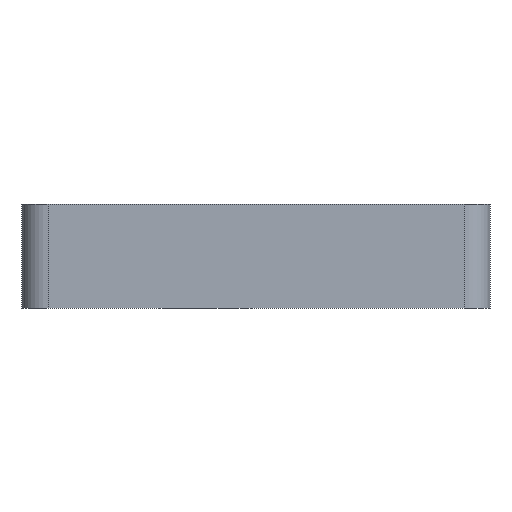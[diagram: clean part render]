
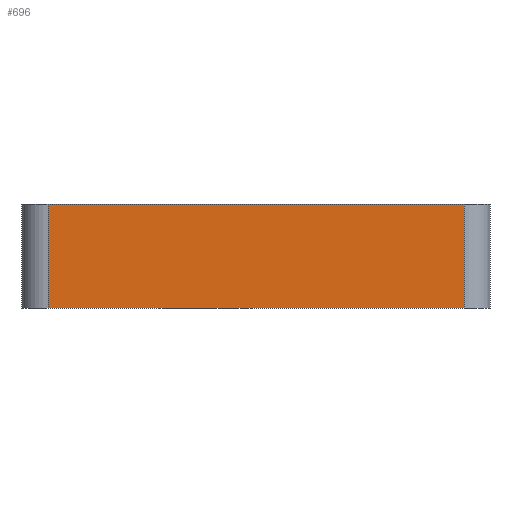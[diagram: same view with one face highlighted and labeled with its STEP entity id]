
A CAD part, front view. The second image highlights one B-rep face of the part: STEP entity #696.
In plain terms, the highlighted planar face has unit normal (0, -1, 0).
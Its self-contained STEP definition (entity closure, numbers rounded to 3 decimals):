
#44 = PLANE('',#45);
#45 = AXIS2_PLACEMENT_3D('',#46,#47,#48);
#46 = CARTESIAN_POINT('',(0.,0.,4.));
#47 = DIRECTION('',(0.,0.,1.));
#48 = DIRECTION('',(1.,0.,0.));
#72 = CYLINDRICAL_SURFACE('',#73,1.);
#73 = AXIS2_PLACEMENT_3D('',#74,#75,#76);
#74 = CARTESIAN_POINT('',(1.,1.,0.));
#75 = DIRECTION('',(0.,0.,1.));
#76 = DIRECTION('',(-1.,-0.,0.));
#100 = PLANE('',#101);
#101 = AXIS2_PLACEMENT_3D('',#102,#103,#104);
#102 = CARTESIAN_POINT('',(0.,0.,0.));
#103 = DIRECTION('',(0.,0.,1.));
#104 = DIRECTION('',(1.,0.,0.));
#143 = VERTEX_POINT('',#144);
#144 = CARTESIAN_POINT('',(1.,0.,4.));
#166 = EDGE_CURVE('',#143,#167,#169,.T.);
#167 = VERTEX_POINT('',#168);
#168 = CARTESIAN_POINT('',(17.,0.,4.));
#169 = SURFACE_CURVE('',#170,(#174,#181),.PCURVE_S1.);
#170 = LINE('',#171,#172);
#171 = CARTESIAN_POINT('',(0.,0.,4.));
#172 = VECTOR('',#173,1.);
#173 = DIRECTION('',(1.,0.,0.));
#174 = PCURVE('',#44,#175);
#175 = DEFINITIONAL_REPRESENTATION('',(#176),#180);
#176 = LINE('',#177,#178);
#177 = CARTESIAN_POINT('',(0.,0.));
#178 = VECTOR('',#179,1.);
#179 = DIRECTION('',(1.,0.));
#180 = ( GEOMETRIC_REPRESENTATION_CONTEXT(2) 
PARAMETRIC_REPRESENTATION_CONTEXT() REPRESENTATION_CONTEXT('2D SPACE',''
  ) );
#181 = PCURVE('',#182,#187);
#182 = PLANE('',#183);
#183 = AXIS2_PLACEMENT_3D('',#184,#185,#186);
#184 = CARTESIAN_POINT('',(0.,0.,0.));
#185 = DIRECTION('',(0.,1.,0.));
#186 = DIRECTION('',(0.,0.,1.));
#187 = DEFINITIONAL_REPRESENTATION('',(#188),#192);
#188 = LINE('',#189,#190);
#189 = CARTESIAN_POINT('',(4.,0.));
#190 = VECTOR('',#191,1.);
#191 = DIRECTION('',(0.,1.));
#192 = ( GEOMETRIC_REPRESENTATION_CONTEXT(2) 
PARAMETRIC_REPRESENTATION_CONTEXT() REPRESENTATION_CONTEXT('2D SPACE',''
  ) );
#215 = CYLINDRICAL_SURFACE('',#216,1.);
#216 = AXIS2_PLACEMENT_3D('',#217,#218,#219);
#217 = CARTESIAN_POINT('',(17.,1.,0.));
#218 = DIRECTION('',(0.,0.,1.));
#219 = DIRECTION('',(1.,0.,-0.));
#412 = VERTEX_POINT('',#413);
#413 = CARTESIAN_POINT('',(1.,0.,0.));
#435 = EDGE_CURVE('',#412,#143,#436,.T.);
#436 = SURFACE_CURVE('',#437,(#441,#448),.PCURVE_S1.);
#437 = LINE('',#438,#439);
#438 = CARTESIAN_POINT('',(1.,0.,0.));
#439 = VECTOR('',#440,1.);
#440 = DIRECTION('',(0.,0.,1.));
#441 = PCURVE('',#72,#442);
#442 = DEFINITIONAL_REPRESENTATION('',(#443),#447);
#443 = LINE('',#444,#445);
#444 = CARTESIAN_POINT('',(1.571,0.));
#445 = VECTOR('',#446,1.);
#446 = DIRECTION('',(0.,1.));
#447 = ( GEOMETRIC_REPRESENTATION_CONTEXT(2) 
PARAMETRIC_REPRESENTATION_CONTEXT() REPRESENTATION_CONTEXT('2D SPACE',''
  ) );
#448 = PCURVE('',#182,#449);
#449 = DEFINITIONAL_REPRESENTATION('',(#450),#454);
#450 = LINE('',#451,#452);
#451 = CARTESIAN_POINT('',(0.,1.));
#452 = VECTOR('',#453,1.);
#453 = DIRECTION('',(1.,0.));
#454 = ( GEOMETRIC_REPRESENTATION_CONTEXT(2) 
PARAMETRIC_REPRESENTATION_CONTEXT() REPRESENTATION_CONTEXT('2D SPACE',''
  ) );
#517 = EDGE_CURVE('',#412,#518,#520,.T.);
#518 = VERTEX_POINT('',#519);
#519 = CARTESIAN_POINT('',(17.,0.,0.));
#520 = SURFACE_CURVE('',#521,(#525,#532),.PCURVE_S1.);
#521 = LINE('',#522,#523);
#522 = CARTESIAN_POINT('',(0.,0.,0.));
#523 = VECTOR('',#524,1.);
#524 = DIRECTION('',(1.,0.,0.));
#525 = PCURVE('',#100,#526);
#526 = DEFINITIONAL_REPRESENTATION('',(#527),#531);
#527 = LINE('',#528,#529);
#528 = CARTESIAN_POINT('',(0.,0.));
#529 = VECTOR('',#530,1.);
#530 = DIRECTION('',(1.,0.));
#531 = ( GEOMETRIC_REPRESENTATION_CONTEXT(2) 
PARAMETRIC_REPRESENTATION_CONTEXT() REPRESENTATION_CONTEXT('2D SPACE',''
  ) );
#532 = PCURVE('',#182,#533);
#533 = DEFINITIONAL_REPRESENTATION('',(#534),#538);
#534 = LINE('',#535,#536);
#535 = CARTESIAN_POINT('',(0.,0.));
#536 = VECTOR('',#537,1.);
#537 = DIRECTION('',(0.,1.));
#538 = ( GEOMETRIC_REPRESENTATION_CONTEXT(2) 
PARAMETRIC_REPRESENTATION_CONTEXT() REPRESENTATION_CONTEXT('2D SPACE',''
  ) );
#696 = ADVANCED_FACE('',(#697),#182,.F.);
#697 = FACE_BOUND('',#698,.F.);
#698 = EDGE_LOOP('',(#699,#700,#701,#702));
#699 = ORIENTED_EDGE('',*,*,#517,.F.);
#700 = ORIENTED_EDGE('',*,*,#435,.T.);
#701 = ORIENTED_EDGE('',*,*,#166,.T.);
#702 = ORIENTED_EDGE('',*,*,#703,.F.);
#703 = EDGE_CURVE('',#518,#167,#704,.T.);
#704 = SURFACE_CURVE('',#705,(#709,#716),.PCURVE_S1.);
#705 = LINE('',#706,#707);
#706 = CARTESIAN_POINT('',(17.,0.,0.));
#707 = VECTOR('',#708,1.);
#708 = DIRECTION('',(0.,0.,1.));
#709 = PCURVE('',#182,#710);
#710 = DEFINITIONAL_REPRESENTATION('',(#711),#715);
#711 = LINE('',#712,#713);
#712 = CARTESIAN_POINT('',(0.,17.));
#713 = VECTOR('',#714,1.);
#714 = DIRECTION('',(1.,0.));
#715 = ( GEOMETRIC_REPRESENTATION_CONTEXT(2) 
PARAMETRIC_REPRESENTATION_CONTEXT() REPRESENTATION_CONTEXT('2D SPACE',''
  ) );
#716 = PCURVE('',#215,#717);
#717 = DEFINITIONAL_REPRESENTATION('',(#718),#722);
#718 = LINE('',#719,#720);
#719 = CARTESIAN_POINT('',(-1.571,0.));
#720 = VECTOR('',#721,1.);
#721 = DIRECTION('',(-0.,1.));
#722 = ( GEOMETRIC_REPRESENTATION_CONTEXT(2) 
PARAMETRIC_REPRESENTATION_CONTEXT() REPRESENTATION_CONTEXT('2D SPACE',''
  ) );
